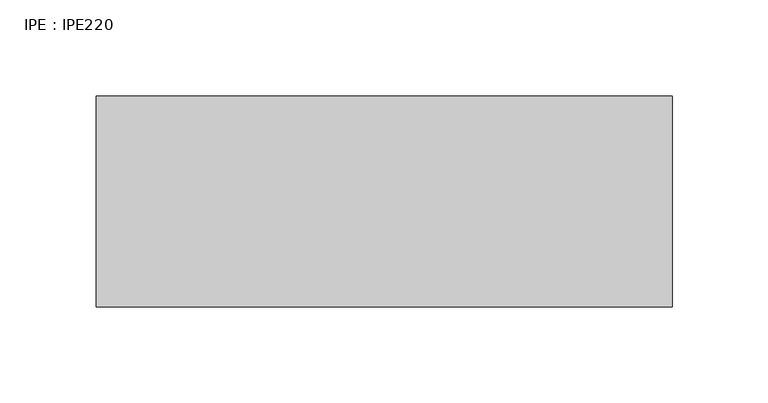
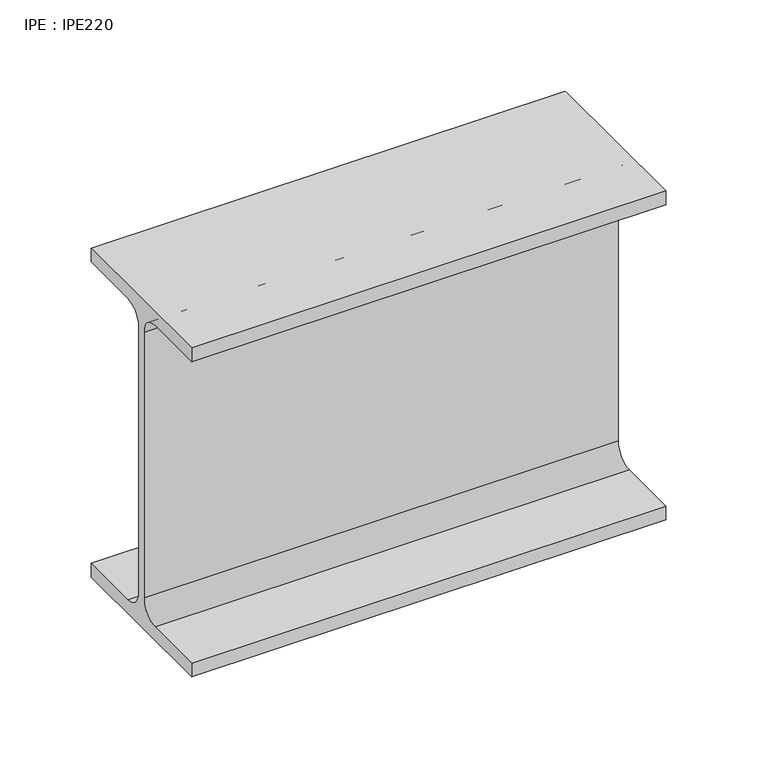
"""IFC4 building model written with IfcOpenShell, lengths in millimetres: beam geometry, IPE : IPE220."""

from ifc_helpers import new_model, si_unit, point, frame, frame_2d, origin, place, context, project, spatial, polyline, circle_curve, trimmed, segment, composite_curve, outline, extrude, source, transform, mapped, element, save


def ipe_ipe220_c6260abe(model_context):
    return source(origin(), model_context, "Body", "SweptSolid", [
        extrude(outline(composite_curve([segment(polyline([(55.0, -100.8), (55.0, -110.0), (-55.0, -110.0), (-55.0, -100.8), (-14.95, -100.8)]), True, "CONTINUOUS"), segment(trimmed(circle_curve(frame_2d((-14.95, -88.8)), 12.0), [point((-14.95, -100.8))], [point((-2.95, -88.8))], True, "CARTESIAN"), True, "CONTINUOUS"), segment(polyline([(-2.95, -88.8), (-2.95, 88.8)]), True, "CONTINUOUS"), segment(trimmed(circle_curve(frame_2d((-14.95, 88.8)), 12.0), [point((-2.95, 88.8))], [point((-14.95, 100.8))], True, "CARTESIAN"), True, "CONTINUOUS"), segment(polyline([(-14.95, 100.8), (-55.0, 100.8), (-55.0, 110.0), (55.0, 110.0), (55.0, 100.8), (14.95, 100.8)]), True, "CONTINUOUS"), segment(trimmed(circle_curve(frame_2d((14.95, 88.8)), 12.0), [point((14.95, 100.8))], [point((2.95, 88.8))], True, "CARTESIAN"), True, "CONTINUOUS"), segment(polyline([(2.95, 88.8), (2.95, -88.8)]), True, "CONTINUOUS"), segment(trimmed(circle_curve(frame_2d((14.95, -88.8)), 12.0), [point((2.95, -88.8))], [point((14.95, -100.8))], True, "CARTESIAN"), True, "CONTINUOUS"), segment(polyline([(14.95, -100.8), (55.0, -100.8)]), True, "CONTINUOUS")], self_intersect=False)), frame((-150.0, 0.0, 0.0), z_axis=(1.0, 0.0, 0.0), x_axis=(0.0, 1.0, 0.0)), (0.0, 0.0, 1.0), 300.0),
    ])


if __name__ == "__main__":
    model = new_model("IFC4")
    model_context = context("Model", 3, world=origin())
    ifc_project = project(units=[si_unit("LENGTHUNIT", "METRE", prefix="MILLI")], contexts=[model_context])
    site = spatial("IfcSite", under=ifc_project)
    building = spatial("IfcBuilding", under=site)
    placement = place(None, origin())
    ipe_ipe220_shape = ipe_ipe220_c6260abe(model_context)
    element("IfcBeam", 1, ObjectType="IPE : IPE220", at=placement, inside=building, context=model_context, shape_type="MappedRepresentation", body=[
        mapped(ipe_ipe220_shape, transform((0.0, 0.0, 0.0), x_axis=(1.0, 0.0, 0.0), y_axis=(0.0, 1.0, 0.0), z_axis=(0.0, 0.0, 1.0))),
    ])
    save(model, "model.ifc")
